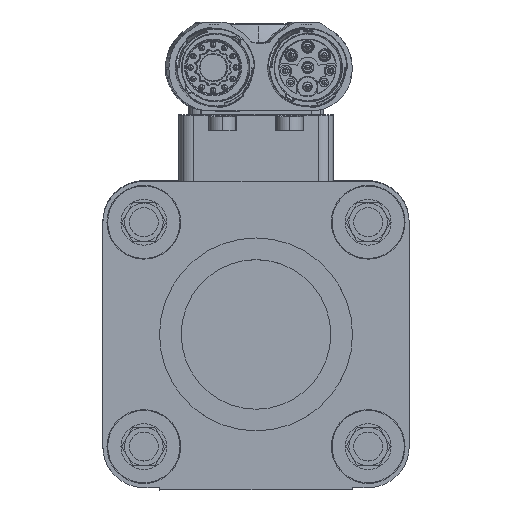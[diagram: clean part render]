
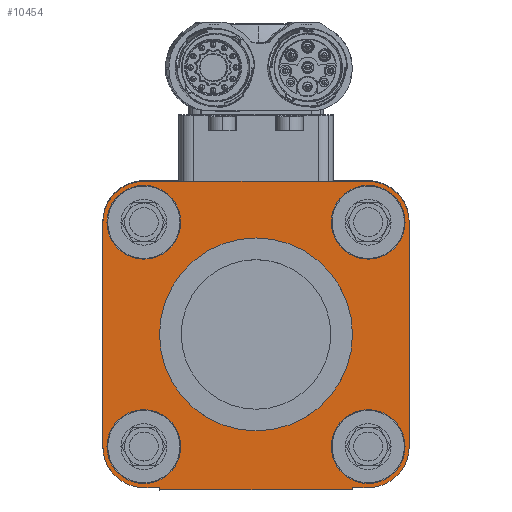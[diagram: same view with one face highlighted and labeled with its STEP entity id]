
A CAD part, left-side view. The second image highlights one B-rep face of the part: STEP entity #10454.
In plain terms, the highlighted planar face has unit normal (-1, 0, -0.001) as drawn and (0, 0, 1) by its records, which use the part's own axes.
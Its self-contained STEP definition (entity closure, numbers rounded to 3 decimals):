
#10454=ADVANCED_FACE('10:20',(#19667,#19668,#19669,#19670,#19671,#19672),#19673,.T.);
#19667=FACE_BOUND('',#48195,.T.);
#19668=FACE_BOUND('',#48196,.T.);
#19669=FACE_BOUND('',#48197,.T.);
#19670=FACE_BOUND('',#48198,.T.);
#19671=FACE_BOUND('',#48199,.T.);
#19672=FACE_OUTER_BOUND('',#48200,.T.);
#19673=PLANE('',#48201);
#48195=EDGE_LOOP('',(#68745,#68746));
#48196=EDGE_LOOP('',(#68747,#68748));
#48197=EDGE_LOOP('',(#68749,#68750));
#48198=EDGE_LOOP('',(#68751,#68752));
#48199=EDGE_LOOP('',(#68753,#68754));
#48200=EDGE_LOOP('',(#68755,#68756,#68757,#68758,#68759,#68760,#68761,#68762,#68763,#68764,#68765,#68766,#68767,#68768,#68769,#68770));
#48201=AXIS2_PLACEMENT_3D('',#68771,#68772,#68773);
#68745=ORIENTED_EDGE('',*,*,#80938,.F.);
#68746=ORIENTED_EDGE('',*,*,#76569,.F.);
#68747=ORIENTED_EDGE('',*,*,#73595,.F.);
#68748=ORIENTED_EDGE('',*,*,#80580,.F.);
#68749=ORIENTED_EDGE('',*,*,#72543,.F.);
#68750=ORIENTED_EDGE('',*,*,#79547,.F.);
#68751=ORIENTED_EDGE('',*,*,#82467,.F.);
#68752=ORIENTED_EDGE('',*,*,#82468,.F.);
#68753=ORIENTED_EDGE('',*,*,#82469,.F.);
#68754=ORIENTED_EDGE('',*,*,#79319,.F.);
#68755=ORIENTED_EDGE('',*,*,#78498,.F.);
#68756=ORIENTED_EDGE('',*,*,#72366,.F.);
#68757=ORIENTED_EDGE('',*,*,#78159,.F.);
#68758=ORIENTED_EDGE('',*,*,#81521,.F.);
#68759=ORIENTED_EDGE('',*,*,#82470,.F.);
#68760=ORIENTED_EDGE('',*,*,#79012,.F.);
#68761=ORIENTED_EDGE('',*,*,#80582,.F.);
#68762=ORIENTED_EDGE('',*,*,#71952,.F.);
#68763=ORIENTED_EDGE('',*,*,#75483,.F.);
#68764=ORIENTED_EDGE('',*,*,#75374,.F.);
#68765=ORIENTED_EDGE('',*,*,#76520,.F.);
#68766=ORIENTED_EDGE('',*,*,#72557,.F.);
#68767=ORIENTED_EDGE('',*,*,#76119,.F.);
#68768=ORIENTED_EDGE('',*,*,#76129,.F.);
#68769=ORIENTED_EDGE('',*,*,#78742,.F.);
#68770=ORIENTED_EDGE('',*,*,#82471,.F.);
#68771=CARTESIAN_POINT('',(0.0,0.0,34.0));
#68772=DIRECTION('',(0.0,0.0,1.0));
#68773=DIRECTION('',(1.0,0.0,0.0));
#71952=EDGE_CURVE('',#85311,#85314,#85315,.F.);
#72366=EDGE_CURVE('',#86025,#86021,#86027,.F.);
#72543=EDGE_CURVE('',#86338,#86334,#86340,.F.);
#72557=EDGE_CURVE('',#86363,#86365,#86366,.T.);
#73595=EDGE_CURVE('',#88134,#88130,#88136,.F.);
#75374=EDGE_CURVE('',#91201,#91199,#91203,.F.);
#75483=EDGE_CURVE('',#91199,#85311,#91384,.F.);
#76119=EDGE_CURVE('',#92473,#86363,#92475,.T.);
#76129=EDGE_CURVE('',#92488,#92473,#92490,.T.);
#76520=EDGE_CURVE('',#86365,#91201,#93156,.F.);
#76569=EDGE_CURVE('',#93239,#93241,#93242,.T.);
#78159=EDGE_CURVE('',#95976,#86025,#95978,.F.);
#78498=EDGE_CURVE('',#86021,#96557,#96559,.F.);
#78742=EDGE_CURVE('',#96963,#92488,#96965,.F.);
#79012=EDGE_CURVE('',#97429,#97431,#97432,.F.);
#79319=EDGE_CURVE('',#97942,#97944,#97945,.F.);
#79547=EDGE_CURVE('',#86334,#86338,#98321,.F.);
#80580=EDGE_CURVE('',#88130,#88134,#100052,.F.);
#80582=EDGE_CURVE('',#85314,#97429,#100054,.F.);
#80938=EDGE_CURVE('',#93241,#93239,#100651,.T.);
#81521=EDGE_CURVE('',#101632,#95976,#101634,.F.);
#82467=EDGE_CURVE('',#103267,#103268,#103269,.F.);
#82468=EDGE_CURVE('',#103268,#103267,#103270,.F.);
#82469=EDGE_CURVE('',#97944,#97942,#103271,.F.);
#82470=EDGE_CURVE('',#97431,#101632,#103272,.F.);
#82471=EDGE_CURVE('',#96557,#96963,#103273,.F.);
#85311=VERTEX_POINT('',#108048);
#85314=VERTEX_POINT('',#108052);
#85315=LINE('',#108053,#108054);
#86021=VERTEX_POINT('',#109372);
#86025=VERTEX_POINT('',#109378);
#86027=LINE('',#109381,#109382);
#86334=VERTEX_POINT('',#110055);
#86338=VERTEX_POINT('',#110060);
#86340=CIRCLE('',#110063,7.65);
#86363=VERTEX_POINT('',#110153);
#86365=VERTEX_POINT('',#110156);
#86366=LINE('',#110157,#110158);
#88130=VERTEX_POINT('',#113408);
#88134=VERTEX_POINT('',#113413);
#88136=CIRCLE('',#113416,7.65);
#91199=VERTEX_POINT('',#119243);
#91201=VERTEX_POINT('',#119246);
#91203=CIRCLE('',#119249,8.5);
#91384=CIRCLE('',#119529,8.5);
#92473=VERTEX_POINT('',#121665);
#92475=LINE('',#121668,#121669);
#92488=VERTEX_POINT('',#121686);
#92490=LINE('',#121689,#121690);
#93156=LINE('',#122773,#122774);
#93239=VERTEX_POINT('',#122933);
#93241=VERTEX_POINT('',#122936);
#93242=CIRCLE('',#122937,20.0);
#95976=VERTEX_POINT('',#128308);
#95978=CIRCLE('',#128311,8.5);
#96557=VERTEX_POINT('',#129404);
#96559=CIRCLE('',#129407,8.5);
#96963=VERTEX_POINT('',#130175);
#96965=LINE('',#130178,#130179);
#97429=VERTEX_POINT('',#130998);
#97431=VERTEX_POINT('',#131001);
#97432=CIRCLE('',#131002,8.5);
#97942=VERTEX_POINT('',#132240);
#97944=VERTEX_POINT('',#132243);
#97945=CIRCLE('',#132244,7.65);
#98321=CIRCLE('',#132903,7.65);
#100052=CIRCLE('',#136400,7.65);
#100054=CIRCLE('',#136402,8.5);
#100651=CIRCLE('',#137418,20.0);
#101632=VERTEX_POINT('',#139279);
#101634=CIRCLE('',#139282,8.5);
#103267=VERTEX_POINT('',#142757);
#103268=VERTEX_POINT('',#142758);
#103269=CIRCLE('',#142759,7.65);
#103270=CIRCLE('',#142760,7.65);
#103271=CIRCLE('',#142761,7.65);
#103272=LINE('',#142762,#142763);
#103273=CIRCLE('',#142764,8.5);
#108048=CARTESIAN_POINT('',(-15.941,-36.636,34.0));
#108052=CARTESIAN_POINT('',(-15.941,9.864,34.0));
#108053=CARTESIAN_POINT('',(-15.941,-6.693,34.0));
#108054=VECTOR('',#148158,1.0);
#109372=CARTESIAN_POINT('',(47.559,-36.636,34.0));
#109378=CARTESIAN_POINT('',(47.559,9.864,34.0));
#109381=CARTESIAN_POINT('',(47.559,-6.693,34.0));
#109382=VECTOR('',#148629,1.0);
#110055=CARTESIAN_POINT('',(0.209,-36.636,34.0));
#110060=CARTESIAN_POINT('',(-15.091,-36.636,34.0));
#110063=AXIS2_PLACEMENT_3D('',#148818,#148819,#148820);
#110153=CARTESIAN_POINT('',(-4.191,-45.636,34.0));
#110156=CARTESIAN_POINT('',(-4.191,-45.136,34.0));
#110157=CARTESIAN_POINT('',(-4.191,-45.636,34.0));
#110158=VECTOR('',#148823,1.0);
#113408=CARTESIAN_POINT('',(46.709,-36.636,34.0));
#113413=CARTESIAN_POINT('',(31.409,-36.636,34.0));
#113416=AXIS2_PLACEMENT_3D('',#150019,#150020,#150021);
#119243=CARTESIAN_POINT('',(-13.451,-42.647,34.0));
#119246=CARTESIAN_POINT('',(-7.441,-45.136,34.0));
#119249=AXIS2_PLACEMENT_3D('',#151966,#151967,#151968);
#119529=AXIS2_PLACEMENT_3D('',#152087,#152088,#152089);
#121665=CARTESIAN_POINT('',(35.809,-45.636,34.0));
#121668=CARTESIAN_POINT('',(35.809,-45.636,34.0));
#121669=VECTOR('',#152808,1.0);
#121686=CARTESIAN_POINT('',(35.809,-45.136,34.0));
#121689=CARTESIAN_POINT('',(35.809,-45.136,34.0));
#121690=VECTOR('',#152814,1.0);
#122773=CARTESIAN_POINT('',(7.904,-45.136,34.0));
#122774=VECTOR('',#153385,1.0);
#122933=CARTESIAN_POINT('',(35.809,-13.386,34.0));
#122936=CARTESIAN_POINT('',(-4.191,-13.386,34.0));
#122937=AXIS2_PLACEMENT_3D('',#153439,#153440,#153441);
#128308=CARTESIAN_POINT('',(45.069,15.874,34.0));
#128311=AXIS2_PLACEMENT_3D('',#155367,#155368,#155369);
#129404=CARTESIAN_POINT('',(45.069,-42.647,34.0));
#129407=AXIS2_PLACEMENT_3D('',#155775,#155776,#155777);
#130175=CARTESIAN_POINT('',(39.059,-45.136,34.0));
#130178=CARTESIAN_POINT('',(7.904,-45.136,34.0));
#130179=VECTOR('',#156048,1.0);
#130998=CARTESIAN_POINT('',(-13.451,15.874,34.0));
#131001=CARTESIAN_POINT('',(-7.441,18.364,34.0));
#131002=AXIS2_PLACEMENT_3D('',#156346,#156347,#156348);
#132240=CARTESIAN_POINT('',(0.209,9.864,34.0));
#132243=CARTESIAN_POINT('',(-15.091,9.864,34.0));
#132244=AXIS2_PLACEMENT_3D('',#156660,#156661,#156662);
#132903=AXIS2_PLACEMENT_3D('',#156885,#156886,#156887);
#136400=AXIS2_PLACEMENT_3D('',#157926,#157927,#157928);
#136402=AXIS2_PLACEMENT_3D('',#157929,#157930,#157931);
#137418=AXIS2_PLACEMENT_3D('',#158309,#158310,#158311);
#139279=CARTESIAN_POINT('',(39.059,18.364,34.0));
#139282=AXIS2_PLACEMENT_3D('',#158937,#158938,#158939);
#142757=CARTESIAN_POINT('',(31.409,9.864,34.0));
#142758=CARTESIAN_POINT('',(46.709,9.864,34.0));
#142759=AXIS2_PLACEMENT_3D('',#159946,#159947,#159948);
#142760=AXIS2_PLACEMENT_3D('',#159949,#159950,#159951);
#142761=AXIS2_PLACEMENT_3D('',#159952,#159953,#159954);
#142762=CARTESIAN_POINT('',(7.904,18.364,34.0));
#142763=VECTOR('',#159955,1.0);
#142764=AXIS2_PLACEMENT_3D('',#159956,#159957,#159958);
#148158=DIRECTION('',(0.0,-1.0,0.0));
#148629=DIRECTION('',(-0.0,1.0,0.0));
#148818=CARTESIAN_POINT('',(-7.441,-36.636,34.0));
#148819=DIRECTION('',(0.0,0.0,-1.0));
#148820=DIRECTION('',(1.0,0.0,0.0));
#148823=DIRECTION('',(0.0,1.0,0.0));
#150019=CARTESIAN_POINT('',(39.059,-36.636,34.0));
#150020=DIRECTION('',(0.0,0.0,-1.0));
#150021=DIRECTION('',(1.0,0.0,0.0));
#151966=CARTESIAN_POINT('',(-7.441,-36.636,34.0));
#151967=DIRECTION('',(0.0,0.0,1.0));
#151968=DIRECTION('',(-0.707,-0.707,0.0));
#152087=CARTESIAN_POINT('',(-7.441,-36.636,34.0));
#152088=DIRECTION('',(0.0,0.0,1.0));
#152089=DIRECTION('',(-0.707,-0.707,0.0));
#152808=DIRECTION('',(-1.0,0.0,0.0));
#152814=DIRECTION('',(0.0,-1.0,0.0));
#153385=DIRECTION('',(1.0,0.0,-0.0));
#153439=CARTESIAN_POINT('',(15.809,-13.386,34.0));
#153440=DIRECTION('',(0.0,0.0,1.0));
#153441=DIRECTION('',(1.0,0.0,-0.0));
#155367=CARTESIAN_POINT('',(39.059,9.864,34.0));
#155368=DIRECTION('',(0.0,-0.0,1.0));
#155369=DIRECTION('',(0.707,0.707,0.0));
#155775=CARTESIAN_POINT('',(39.059,-36.636,34.0));
#155776=DIRECTION('',(0.0,0.0,1.0));
#155777=DIRECTION('',(0.707,-0.707,0.0));
#156048=DIRECTION('',(1.0,0.0,-0.0));
#156346=CARTESIAN_POINT('',(-7.441,9.864,34.0));
#156347=DIRECTION('',(0.0,0.0,1.0));
#156348=DIRECTION('',(-0.707,0.707,0.0));
#156660=CARTESIAN_POINT('',(-7.441,9.864,34.0));
#156661=DIRECTION('',(0.0,0.0,-1.0));
#156662=DIRECTION('',(1.0,0.0,0.0));
#156885=CARTESIAN_POINT('',(-7.441,-36.636,34.0));
#156886=DIRECTION('',(0.0,0.0,-1.0));
#156887=DIRECTION('',(1.0,0.0,0.0));
#157926=CARTESIAN_POINT('',(39.059,-36.636,34.0));
#157927=DIRECTION('',(0.0,0.0,-1.0));
#157928=DIRECTION('',(1.0,0.0,0.0));
#157929=CARTESIAN_POINT('',(-7.441,9.864,34.0));
#157930=DIRECTION('',(0.0,0.0,1.0));
#157931=DIRECTION('',(-0.707,0.707,0.0));
#158309=CARTESIAN_POINT('',(15.809,-13.386,34.0));
#158310=DIRECTION('',(0.0,0.0,1.0));
#158311=DIRECTION('',(1.0,0.0,-0.0));
#158937=CARTESIAN_POINT('',(39.059,9.864,34.0));
#158938=DIRECTION('',(0.0,-0.0,1.0));
#158939=DIRECTION('',(0.707,0.707,0.0));
#159946=CARTESIAN_POINT('',(39.059,9.864,34.0));
#159947=DIRECTION('',(0.0,0.0,-1.0));
#159948=DIRECTION('',(1.0,0.0,0.0));
#159949=CARTESIAN_POINT('',(39.059,9.864,34.0));
#159950=DIRECTION('',(0.0,0.0,-1.0));
#159951=DIRECTION('',(1.0,0.0,0.0));
#159952=CARTESIAN_POINT('',(-7.441,9.864,34.0));
#159953=DIRECTION('',(0.0,0.0,-1.0));
#159954=DIRECTION('',(1.0,0.0,0.0));
#159955=DIRECTION('',(-1.0,0.0,0.0));
#159956=CARTESIAN_POINT('',(39.059,-36.636,34.0));
#159957=DIRECTION('',(0.0,0.0,1.0));
#159958=DIRECTION('',(0.707,-0.707,0.0));
